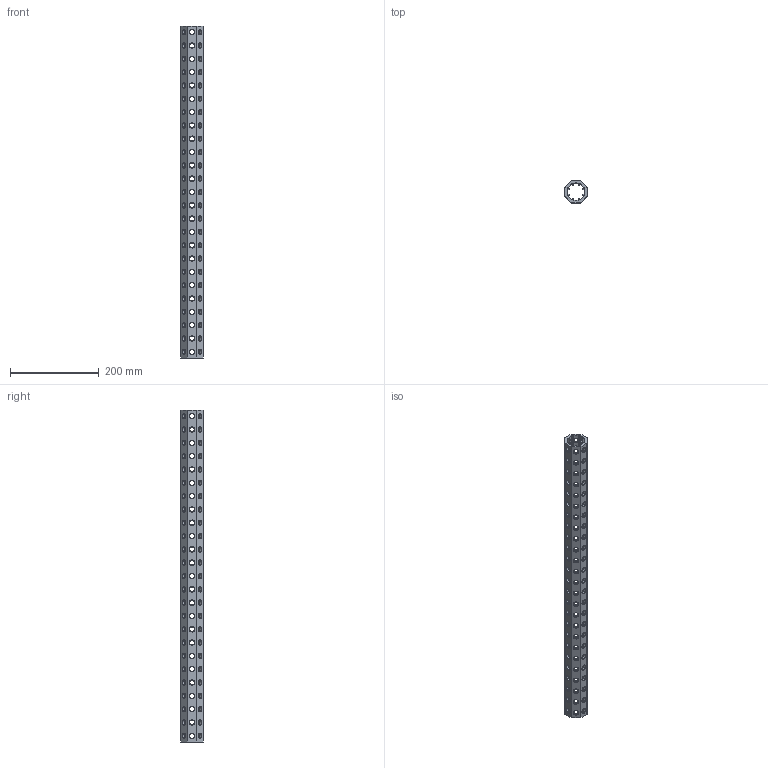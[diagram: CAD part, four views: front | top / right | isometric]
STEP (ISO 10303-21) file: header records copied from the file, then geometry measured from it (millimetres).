
FILE_DESCRIPTION(('CATIA V5 STEP Exchange'),'2;1');
FILE_NAME('U:\Room\唐宝山\EGT002\46-01-010254-01-EGT002-748.stp','2021-08-24T01:07:07+00:00',('none'),('none'),'CATIA Version 5 Release 21 GA (IN-10)','CATIA V5 STEP AP203','none');
FILE_SCHEMA(('CONFIG_CONTROL_DESIGN'));
Products named in the file (1): 46-01-010254-01-EGT002-748
Bounding box: 50 x 50 x 748 mm (x, y, z)
Volume: 532780.5 mm3; surface area: 257988.8 mm2
Topology: 1 solids, 1 shells, 1084 faces, 2996 edges, 1864 vertices
Faces by surface type: cone 600, cylinder 458, plane 26
Entity records: 46203 total; most frequent: CARTESIAN_POINT 20046, ORIENTED_EDGE 5992, DIRECTION 4152, EDGE_CURVE 2996, AXIS2_PLACEMENT_3D 1889, VERTEX_POINT 1864, EDGE_LOOP 1436, VECTOR 1180
